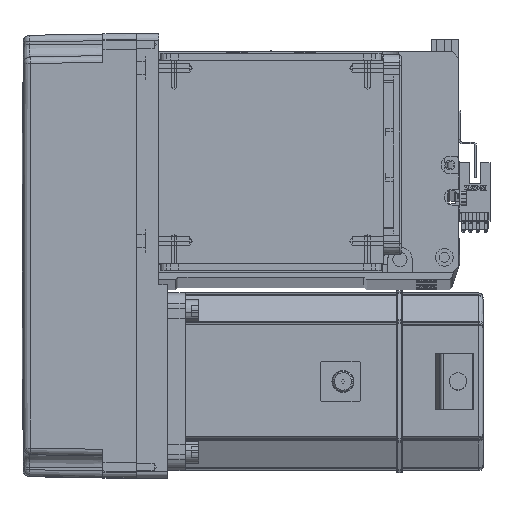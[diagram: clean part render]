
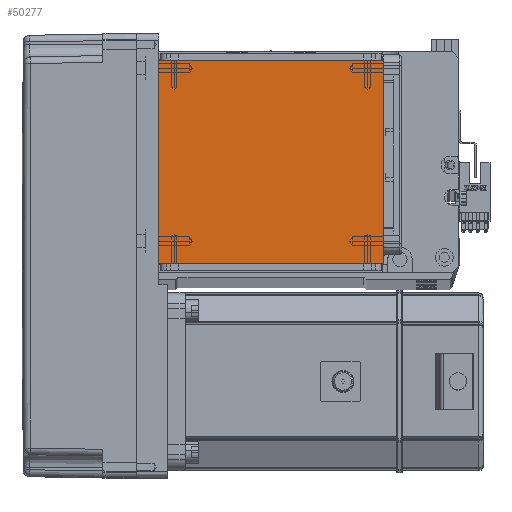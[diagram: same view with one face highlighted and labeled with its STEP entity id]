
A CAD part, top view. The second image highlights one B-rep face of the part: STEP entity #50277.
In plain terms, the highlighted planar face has unit normal (0, 0, 1).
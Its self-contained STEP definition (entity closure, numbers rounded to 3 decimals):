
#2659 = DIRECTION ( 'NONE',  ( 0., 1., 0. ) ) ;
#2902 = CARTESIAN_POINT ( 'NONE',  ( 50.5, 111.5, 115. ) ) ;
#3979 = DIRECTION ( 'NONE',  ( 1., 0., 0. ) ) ;
#4012 = VERTEX_POINT ( 'NONE', #25033 ) ;
#4140 = DIRECTION ( 'NONE',  ( -1., 0., 0. ) ) ;
#6261 = AXIS2_PLACEMENT_3D ( 'NONE', #31327, #26764, #41767 ) ;
#7204 = CARTESIAN_POINT ( 'NONE',  ( -50.5, 20., 115. ) ) ;
#12300 = VERTEX_POINT ( 'NONE', #2902 ) ;
#21411 = VECTOR ( 'NONE', #49761, 1000. ) ;
#21592 = PLANE ( 'NONE',  #6261 ) ;
#24296 = LINE ( 'NONE', #33904, #28915 ) ;
#25033 = CARTESIAN_POINT ( 'NONE',  ( -50.5, 111.5, 115. ) ) ;
#26052 = CARTESIAN_POINT ( 'NONE',  ( 50.5, 20., 115. ) ) ;
#26075 = EDGE_CURVE ( 'NONE', #48660, #47384, #24296, .T. ) ;
#26764 = DIRECTION ( 'NONE',  ( 0., 0., 1. ) ) ;
#28915 = VECTOR ( 'NONE', #4140, 1000. ) ;
#30795 = VECTOR ( 'NONE', #3979, 1000. ) ;
#31327 = CARTESIAN_POINT ( 'NONE',  ( 0., 0., 115. ) ) ;
#32588 = LINE ( 'NONE', #37398, #51255 ) ;
#33745 = CARTESIAN_POINT ( 'NONE',  ( -70.004, 111.5, 115. ) ) ;
#33810 = ORIENTED_EDGE ( 'NONE', *, *, #26075, .F. ) ;
#33904 = CARTESIAN_POINT ( 'NONE',  ( -70.004, 20., 115. ) ) ;
#37398 = CARTESIAN_POINT ( 'NONE',  ( 50.5, 122., 115. ) ) ;
#41742 = LINE ( 'NONE', #33745, #30795 ) ;
#41767 = DIRECTION ( 'NONE',  ( 1., 0., 0. ) ) ;
#44774 = CARTESIAN_POINT ( 'NONE',  ( -50.5, 122., 115. ) ) ;
#45641 = LINE ( 'NONE', #44774, #21411 ) ;
#47145 = EDGE_CURVE ( 'NONE', #4012, #47384, #45641, .T. ) ;
#47384 = VERTEX_POINT ( 'NONE', #7204 ) ;
#47720 = FACE_OUTER_BOUND ( 'NONE', #51578, .T. ) ;
#48660 = VERTEX_POINT ( 'NONE', #26052 ) ;
#49761 = DIRECTION ( 'NONE',  ( 0., -1., 0. ) ) ;
#50277 = ADVANCED_FACE ( 'NONE', ( #47720 ), #21592, .T. ) ;
#50349 = ORIENTED_EDGE ( 'NONE', *, *, #62658, .F. ) ;
#51255 = VECTOR ( 'NONE', #2659, 1000. ) ;
#51578 = EDGE_LOOP ( 'NONE', ( #50349, #51994, #33810, #51926 ) ) ;
#51926 = ORIENTED_EDGE ( 'NONE', *, *, #59485, .T. ) ;
#51994 = ORIENTED_EDGE ( 'NONE', *, *, #47145, .T. ) ;
#59485 = EDGE_CURVE ( 'NONE', #48660, #12300, #32588, .T. ) ;
#62658 = EDGE_CURVE ( 'NONE', #4012, #12300, #41742, .T. ) ;
